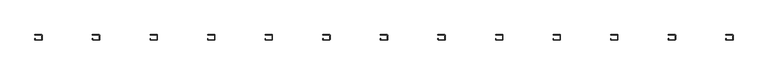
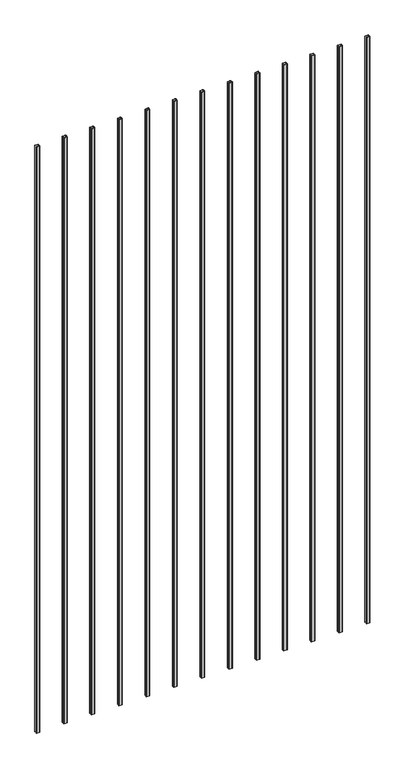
"""IFC4 building model written with IfcOpenShell, lengths in millimetres: fastener geometry, Knight-Wall-Systems_CI-Girt : CI-Girt™ 150."""

from ifc_helpers import new_model, si_unit, point, frame_2d, origin, origin_with_axes, place, context, project, spatial, polyline, circle_curve, trimmed, segment, composite_curve, outline, extrude, source, transform, mapped, element, save


def fastener_d01256d0(model_context):
    return source(origin(), model_context, "Body", "SweptSolid", [
        extrude(outline(composite_curve([segment(trimmed(circle_curve(frame_2d((4518.025, 3.175)), 3.175), [point((4521.2, 3.175))], [point((4518.025, 0.0))], False, "CARTESIAN"), True, "CONTINUOUS"), segment(polyline([(4518.025, 0.0), (4473.575, 0.0)]), True, "CONTINUOUS"), segment(trimmed(circle_curve(frame_2d((4473.575, 3.175)), 3.175), [point((4473.575, 0.0))], [point((4470.4, 3.175))], False, "CARTESIAN"), True, "CONTINUOUS"), segment(polyline([(4470.4, 3.175), (4470.4, 9.525), (4471.9875, 9.525), (4471.9875, 3.175)]), True, "CONTINUOUS"), segment(trimmed(circle_curve(frame_2d((4473.575, 3.175)), 1.5875), [point((4471.9875, 3.175))], [point((4473.575, 1.5875))], True, "CARTESIAN"), True, "CONTINUOUS"), segment(polyline([(4473.575, 1.5875), (4518.025, 1.5875)]), True, "CONTINUOUS"), segment(trimmed(circle_curve(frame_2d((4518.025, 3.175)), 1.5875), [point((4518.025, 1.5875))], [point((4519.6125, 3.175))], True, "CARTESIAN"), True, "CONTINUOUS"), segment(polyline([(4519.6125, 3.175), (4519.6125, 34.925)]), True, "CONTINUOUS"), segment(trimmed(circle_curve(frame_2d((4518.025, 34.925)), 1.5875), [point((4519.6125, 34.925))], [point((4518.025, 36.5125))], True, "CARTESIAN"), True, "CONTINUOUS"), segment(polyline([(4518.025, 36.5125), (4470.4, 36.5125), (4470.4, 38.1), (4518.025, 38.1)]), True, "CONTINUOUS"), segment(trimmed(circle_curve(frame_2d((4518.025, 34.925)), 3.175), [point((4518.025, 38.1))], [point((4521.2, 34.925))], False, "CARTESIAN"), True, "CONTINUOUS"), segment(polyline([(4521.2, 34.925), (4521.2, 3.175)]), True, "CONTINUOUS")], self_intersect=False)), origin_with_axes(), (0.0, 0.0, 1.0), 9144.0),
        extrude(outline(composite_curve([segment(trimmed(circle_curve(frame_2d((4111.625, 3.175)), 3.175), [point((4114.8, 3.175))], [point((4111.625, 0.0))], False, "CARTESIAN"), True, "CONTINUOUS"), segment(polyline([(4111.625, 0.0), (4067.175, 0.0)]), True, "CONTINUOUS"), segment(trimmed(circle_curve(frame_2d((4067.175, 3.175)), 3.175), [point((4067.175, 0.0))], [point((4064.0, 3.175))], False, "CARTESIAN"), True, "CONTINUOUS"), segment(polyline([(4064.0, 3.175), (4064.0, 9.525), (4065.5875, 9.525), (4065.5875, 3.175)]), True, "CONTINUOUS"), segment(trimmed(circle_curve(frame_2d((4067.175, 3.175)), 1.5875), [point((4065.5875, 3.175))], [point((4067.175, 1.5875))], True, "CARTESIAN"), True, "CONTINUOUS"), segment(polyline([(4067.175, 1.5875), (4111.625, 1.5875)]), True, "CONTINUOUS"), segment(trimmed(circle_curve(frame_2d((4111.625, 3.175)), 1.5875), [point((4111.625, 1.5875))], [point((4113.2125, 3.175))], True, "CARTESIAN"), True, "CONTINUOUS"), segment(polyline([(4113.2125, 3.175), (4113.2125, 34.925)]), True, "CONTINUOUS"), segment(trimmed(circle_curve(frame_2d((4111.625, 34.925)), 1.5875), [point((4113.2125, 34.925))], [point((4111.625, 36.5125))], True, "CARTESIAN"), True, "CONTINUOUS"), segment(polyline([(4111.625, 36.5125), (4064.0, 36.5125), (4064.0, 38.1), (4111.625, 38.1)]), True, "CONTINUOUS"), segment(trimmed(circle_curve(frame_2d((4111.625, 34.925)), 3.175), [point((4111.625, 38.1))], [point((4114.8, 34.925))], False, "CARTESIAN"), True, "CONTINUOUS"), segment(polyline([(4114.8, 34.925), (4114.8, 3.175)]), True, "CONTINUOUS")], self_intersect=False)), origin_with_axes(), (0.0, 0.0, 1.0), 9144.0),
        extrude(outline(composite_curve([segment(trimmed(circle_curve(frame_2d((3705.225, 3.175)), 3.175), [point((3708.4, 3.175))], [point((3705.225, 0.0))], False, "CARTESIAN"), True, "CONTINUOUS"), segment(polyline([(3705.225, 0.0), (3660.775, 0.0)]), True, "CONTINUOUS"), segment(trimmed(circle_curve(frame_2d((3660.775, 3.175)), 3.175), [point((3660.775, 0.0))], [point((3657.6, 3.175))], False, "CARTESIAN"), True, "CONTINUOUS"), segment(polyline([(3657.6, 3.175), (3657.6, 9.525), (3659.1875, 9.525), (3659.1875, 3.175)]), True, "CONTINUOUS"), segment(trimmed(circle_curve(frame_2d((3660.775, 3.175)), 1.5875), [point((3659.1875, 3.175))], [point((3660.775, 1.5875))], True, "CARTESIAN"), True, "CONTINUOUS"), segment(polyline([(3660.775, 1.5875), (3705.225, 1.5875)]), True, "CONTINUOUS"), segment(trimmed(circle_curve(frame_2d((3705.225, 3.175)), 1.5875), [point((3705.225, 1.5875))], [point((3706.8125, 3.175))], True, "CARTESIAN"), True, "CONTINUOUS"), segment(polyline([(3706.8125, 3.175), (3706.8125, 34.925)]), True, "CONTINUOUS"), segment(trimmed(circle_curve(frame_2d((3705.225, 34.925)), 1.5875), [point((3706.8125, 34.925))], [point((3705.225, 36.5125))], True, "CARTESIAN"), True, "CONTINUOUS"), segment(polyline([(3705.225, 36.5125), (3657.6, 36.5125), (3657.6, 38.1), (3705.225, 38.1)]), True, "CONTINUOUS"), segment(trimmed(circle_curve(frame_2d((3705.225, 34.925)), 3.175), [point((3705.225, 38.1))], [point((3708.4, 34.925))], False, "CARTESIAN"), True, "CONTINUOUS"), segment(polyline([(3708.4, 34.925), (3708.4, 3.175)]), True, "CONTINUOUS")], self_intersect=False)), origin_with_axes(), (0.0, 0.0, 1.0), 9144.0),
        extrude(outline(composite_curve([segment(trimmed(circle_curve(frame_2d((3298.825, 3.175)), 3.175), [point((3302.0, 3.175))], [point((3298.825, 0.0))], False, "CARTESIAN"), True, "CONTINUOUS"), segment(polyline([(3298.825, 0.0), (3254.375, 0.0)]), True, "CONTINUOUS"), segment(trimmed(circle_curve(frame_2d((3254.375, 3.175)), 3.175), [point((3254.375, 0.0))], [point((3251.2, 3.175))], False, "CARTESIAN"), True, "CONTINUOUS"), segment(polyline([(3251.2, 3.175), (3251.2, 9.525), (3252.7875, 9.525), (3252.7875, 3.175)]), True, "CONTINUOUS"), segment(trimmed(circle_curve(frame_2d((3254.375, 3.175)), 1.5875), [point((3252.7875, 3.175))], [point((3254.375, 1.5875))], True, "CARTESIAN"), True, "CONTINUOUS"), segment(polyline([(3254.375, 1.5875), (3298.825, 1.5875)]), True, "CONTINUOUS"), segment(trimmed(circle_curve(frame_2d((3298.825, 3.175)), 1.5875), [point((3298.825, 1.5875))], [point((3300.4125, 3.175))], True, "CARTESIAN"), True, "CONTINUOUS"), segment(polyline([(3300.4125, 3.175), (3300.4125, 34.925)]), True, "CONTINUOUS"), segment(trimmed(circle_curve(frame_2d((3298.825, 34.925)), 1.5875), [point((3300.4125, 34.925))], [point((3298.825, 36.5125))], True, "CARTESIAN"), True, "CONTINUOUS"), segment(polyline([(3298.825, 36.5125), (3251.2, 36.5125), (3251.2, 38.1), (3298.825, 38.1)]), True, "CONTINUOUS"), segment(trimmed(circle_curve(frame_2d((3298.825, 34.925)), 3.175), [point((3298.825, 38.1))], [point((3302.0, 34.925))], False, "CARTESIAN"), True, "CONTINUOUS"), segment(polyline([(3302.0, 34.925), (3302.0, 3.175)]), True, "CONTINUOUS")], self_intersect=False)), origin_with_axes(), (0.0, 0.0, 1.0), 9144.0),
        extrude(outline(composite_curve([segment(trimmed(circle_curve(frame_2d((2892.425, 3.175)), 3.175), [point((2895.6, 3.175))], [point((2892.425, 0.0))], False, "CARTESIAN"), True, "CONTINUOUS"), segment(polyline([(2892.425, 0.0), (2847.975, 0.0)]), True, "CONTINUOUS"), segment(trimmed(circle_curve(frame_2d((2847.975, 3.175)), 3.175), [point((2847.975, 0.0))], [point((2844.8, 3.175))], False, "CARTESIAN"), True, "CONTINUOUS"), segment(polyline([(2844.8, 3.175), (2844.8, 9.525), (2846.3875, 9.525), (2846.3875, 3.175)]), True, "CONTINUOUS"), segment(trimmed(circle_curve(frame_2d((2847.975, 3.175)), 1.5875), [point((2846.3875, 3.175))], [point((2847.975, 1.5875))], True, "CARTESIAN"), True, "CONTINUOUS"), segment(polyline([(2847.975, 1.5875), (2892.425, 1.5875)]), True, "CONTINUOUS"), segment(trimmed(circle_curve(frame_2d((2892.425, 3.175)), 1.5875), [point((2892.425, 1.5875))], [point((2894.0125, 3.175))], True, "CARTESIAN"), True, "CONTINUOUS"), segment(polyline([(2894.0125, 3.175), (2894.0125, 34.925)]), True, "CONTINUOUS"), segment(trimmed(circle_curve(frame_2d((2892.425, 34.925)), 1.5875), [point((2894.0125, 34.925))], [point((2892.425, 36.5125))], True, "CARTESIAN"), True, "CONTINUOUS"), segment(polyline([(2892.425, 36.5125), (2844.8, 36.5125), (2844.8, 38.1), (2892.425, 38.1)]), True, "CONTINUOUS"), segment(trimmed(circle_curve(frame_2d((2892.425, 34.925)), 3.175), [point((2892.425, 38.1))], [point((2895.6, 34.925))], False, "CARTESIAN"), True, "CONTINUOUS"), segment(polyline([(2895.6, 34.925), (2895.6, 3.175)]), True, "CONTINUOUS")], self_intersect=False)), origin_with_axes(), (0.0, 0.0, 1.0), 9144.0),
        extrude(outline(composite_curve([segment(trimmed(circle_curve(frame_2d((2486.025, 3.175)), 3.175), [point((2489.2, 3.175))], [point((2486.025, 0.0))], False, "CARTESIAN"), True, "CONTINUOUS"), segment(polyline([(2486.025, 0.0), (2441.575, 0.0)]), True, "CONTINUOUS"), segment(trimmed(circle_curve(frame_2d((2441.575, 3.175)), 3.175), [point((2441.575, 0.0))], [point((2438.4, 3.175))], False, "CARTESIAN"), True, "CONTINUOUS"), segment(polyline([(2438.4, 3.175), (2438.4, 9.525), (2439.9875, 9.525), (2439.9875, 3.175)]), True, "CONTINUOUS"), segment(trimmed(circle_curve(frame_2d((2441.575, 3.175)), 1.5875), [point((2439.9875, 3.175))], [point((2441.575, 1.5875))], True, "CARTESIAN"), True, "CONTINUOUS"), segment(polyline([(2441.575, 1.5875), (2486.025, 1.5875)]), True, "CONTINUOUS"), segment(trimmed(circle_curve(frame_2d((2486.025, 3.175)), 1.5875), [point((2486.025, 1.5875))], [point((2487.6125, 3.175))], True, "CARTESIAN"), True, "CONTINUOUS"), segment(polyline([(2487.6125, 3.175), (2487.6125, 34.925)]), True, "CONTINUOUS"), segment(trimmed(circle_curve(frame_2d((2486.025, 34.925)), 1.5875), [point((2487.6125, 34.925))], [point((2486.025, 36.5125))], True, "CARTESIAN"), True, "CONTINUOUS"), segment(polyline([(2486.025, 36.5125), (2438.4, 36.5125), (2438.4, 38.1), (2486.025, 38.1)]), True, "CONTINUOUS"), segment(trimmed(circle_curve(frame_2d((2486.025, 34.925)), 3.175), [point((2486.025, 38.1))], [point((2489.2, 34.925))], False, "CARTESIAN"), True, "CONTINUOUS"), segment(polyline([(2489.2, 34.925), (2489.2, 3.175)]), True, "CONTINUOUS")], self_intersect=False)), origin_with_axes(), (0.0, 0.0, 1.0), 9144.0),
        extrude(outline(composite_curve([segment(trimmed(circle_curve(frame_2d((2079.625, 3.175)), 3.175), [point((2082.8, 3.175))], [point((2079.625, 0.0))], False, "CARTESIAN"), True, "CONTINUOUS"), segment(polyline([(2079.625, 0.0), (2035.175, 0.0)]), True, "CONTINUOUS"), segment(trimmed(circle_curve(frame_2d((2035.175, 3.175)), 3.175), [point((2035.175, 0.0))], [point((2032.0, 3.175))], False, "CARTESIAN"), True, "CONTINUOUS"), segment(polyline([(2032.0, 3.175), (2032.0, 9.525), (2033.5875, 9.525), (2033.5875, 3.175)]), True, "CONTINUOUS"), segment(trimmed(circle_curve(frame_2d((2035.175, 3.175)), 1.5875), [point((2033.5875, 3.175))], [point((2035.175, 1.5875))], True, "CARTESIAN"), True, "CONTINUOUS"), segment(polyline([(2035.175, 1.5875), (2079.625, 1.5875)]), True, "CONTINUOUS"), segment(trimmed(circle_curve(frame_2d((2079.625, 3.175)), 1.5875), [point((2079.625, 1.5875))], [point((2081.2125, 3.175))], True, "CARTESIAN"), True, "CONTINUOUS"), segment(polyline([(2081.2125, 3.175), (2081.2125, 34.925)]), True, "CONTINUOUS"), segment(trimmed(circle_curve(frame_2d((2079.625, 34.925)), 1.5875), [point((2081.2125, 34.925))], [point((2079.625, 36.5125))], True, "CARTESIAN"), True, "CONTINUOUS"), segment(polyline([(2079.625, 36.5125), (2032.0, 36.5125), (2032.0, 38.1), (2079.625, 38.1)]), True, "CONTINUOUS"), segment(trimmed(circle_curve(frame_2d((2079.625, 34.925)), 3.175), [point((2079.625, 38.1))], [point((2082.8, 34.925))], False, "CARTESIAN"), True, "CONTINUOUS"), segment(polyline([(2082.8, 34.925), (2082.8, 3.175)]), True, "CONTINUOUS")], self_intersect=False)), origin_with_axes(), (0.0, 0.0, 1.0), 9144.0),
        extrude(outline(composite_curve([segment(trimmed(circle_curve(frame_2d((1673.225, 3.175)), 3.175), [point((1676.4, 3.175))], [point((1673.225, 0.0))], False, "CARTESIAN"), True, "CONTINUOUS"), segment(polyline([(1673.225, 0.0), (1628.775, 0.0)]), True, "CONTINUOUS"), segment(trimmed(circle_curve(frame_2d((1628.775, 3.175)), 3.175), [point((1628.775, 0.0))], [point((1625.6, 3.175))], False, "CARTESIAN"), True, "CONTINUOUS"), segment(polyline([(1625.6, 3.175), (1625.6, 9.525), (1627.1875, 9.525), (1627.1875, 3.175)]), True, "CONTINUOUS"), segment(trimmed(circle_curve(frame_2d((1628.775, 3.175)), 1.5875), [point((1627.1875, 3.175))], [point((1628.775, 1.5875))], True, "CARTESIAN"), True, "CONTINUOUS"), segment(polyline([(1628.775, 1.5875), (1673.225, 1.5875)]), True, "CONTINUOUS"), segment(trimmed(circle_curve(frame_2d((1673.225, 3.175)), 1.5875), [point((1673.225, 1.5875))], [point((1674.8125, 3.175))], True, "CARTESIAN"), True, "CONTINUOUS"), segment(polyline([(1674.8125, 3.175), (1674.8125, 34.925)]), True, "CONTINUOUS"), segment(trimmed(circle_curve(frame_2d((1673.225, 34.925)), 1.5875), [point((1674.8125, 34.925))], [point((1673.225, 36.5125))], True, "CARTESIAN"), True, "CONTINUOUS"), segment(polyline([(1673.225, 36.5125), (1625.6, 36.5125), (1625.6, 38.1), (1673.225, 38.1)]), True, "CONTINUOUS"), segment(trimmed(circle_curve(frame_2d((1673.225, 34.925)), 3.175), [point((1673.225, 38.1))], [point((1676.4, 34.925))], False, "CARTESIAN"), True, "CONTINUOUS"), segment(polyline([(1676.4, 34.925), (1676.4, 3.175)]), True, "CONTINUOUS")], self_intersect=False)), origin_with_axes(), (0.0, 0.0, 1.0), 9144.0),
        extrude(outline(composite_curve([segment(trimmed(circle_curve(frame_2d((1266.825, 3.175)), 3.175), [point((1270.0, 3.175))], [point((1266.825, 0.0))], False, "CARTESIAN"), True, "CONTINUOUS"), segment(polyline([(1266.825, 0.0), (1222.375, 0.0)]), True, "CONTINUOUS"), segment(trimmed(circle_curve(frame_2d((1222.375, 3.175)), 3.175), [point((1222.375, 0.0))], [point((1219.2, 3.175))], False, "CARTESIAN"), True, "CONTINUOUS"), segment(polyline([(1219.2, 3.175), (1219.2, 9.525), (1220.7875, 9.525), (1220.7875, 3.175)]), True, "CONTINUOUS"), segment(trimmed(circle_curve(frame_2d((1222.375, 3.175)), 1.5875), [point((1220.7875, 3.175))], [point((1222.375, 1.5875))], True, "CARTESIAN"), True, "CONTINUOUS"), segment(polyline([(1222.375, 1.5875), (1266.825, 1.5875)]), True, "CONTINUOUS"), segment(trimmed(circle_curve(frame_2d((1266.825, 3.175)), 1.5875), [point((1266.825, 1.5875))], [point((1268.4125, 3.175))], True, "CARTESIAN"), True, "CONTINUOUS"), segment(polyline([(1268.4125, 3.175), (1268.4125, 34.925)]), True, "CONTINUOUS"), segment(trimmed(circle_curve(frame_2d((1266.825, 34.925)), 1.5875), [point((1268.4125, 34.925))], [point((1266.825, 36.5125))], True, "CARTESIAN"), True, "CONTINUOUS"), segment(polyline([(1266.825, 36.5125), (1219.2, 36.5125), (1219.2, 38.1), (1266.825, 38.1)]), True, "CONTINUOUS"), segment(trimmed(circle_curve(frame_2d((1266.825, 34.925)), 3.175), [point((1266.825, 38.1))], [point((1270.0, 34.925))], False, "CARTESIAN"), True, "CONTINUOUS"), segment(polyline([(1270.0, 34.925), (1270.0, 3.175)]), True, "CONTINUOUS")], self_intersect=False)), origin_with_axes(), (0.0, 0.0, 1.0), 9144.0),
        extrude(outline(composite_curve([segment(trimmed(circle_curve(frame_2d((860.425, 3.175)), 3.175), [point((863.6, 3.175))], [point((860.425, 0.0))], False, "CARTESIAN"), True, "CONTINUOUS"), segment(polyline([(860.425, 0.0), (815.975, 0.0)]), True, "CONTINUOUS"), segment(trimmed(circle_curve(frame_2d((815.975, 3.175)), 3.175), [point((815.975, 0.0))], [point((812.8, 3.175))], False, "CARTESIAN"), True, "CONTINUOUS"), segment(polyline([(812.8, 3.175), (812.8, 9.525), (814.3875, 9.525), (814.3875, 3.175)]), True, "CONTINUOUS"), segment(trimmed(circle_curve(frame_2d((815.975, 3.175)), 1.5875), [point((814.3875, 3.175))], [point((815.975, 1.5875))], True, "CARTESIAN"), True, "CONTINUOUS"), segment(polyline([(815.975, 1.5875), (860.425, 1.5875)]), True, "CONTINUOUS"), segment(trimmed(circle_curve(frame_2d((860.425, 3.175)), 1.5875), [point((860.425, 1.5875))], [point((862.0125, 3.175))], True, "CARTESIAN"), True, "CONTINUOUS"), segment(polyline([(862.0125, 3.175), (862.0125, 34.925)]), True, "CONTINUOUS"), segment(trimmed(circle_curve(frame_2d((860.425, 34.925)), 1.5875), [point((862.0125, 34.925))], [point((860.425, 36.5125))], True, "CARTESIAN"), True, "CONTINUOUS"), segment(polyline([(860.425, 36.5125), (812.8, 36.5125), (812.8, 38.1), (860.425, 38.1)]), True, "CONTINUOUS"), segment(trimmed(circle_curve(frame_2d((860.425, 34.925)), 3.175), [point((860.425, 38.1))], [point((863.6, 34.925))], False, "CARTESIAN"), True, "CONTINUOUS"), segment(polyline([(863.6, 34.925), (863.6, 3.175)]), True, "CONTINUOUS")], self_intersect=False)), origin_with_axes(), (0.0, 0.0, 1.0), 9144.0),
        extrude(outline(composite_curve([segment(trimmed(circle_curve(frame_2d((454.025, 3.175)), 3.175), [point((457.2, 3.175))], [point((454.025, 0.0))], False, "CARTESIAN"), True, "CONTINUOUS"), segment(polyline([(454.025, 0.0), (409.575, 0.0)]), True, "CONTINUOUS"), segment(trimmed(circle_curve(frame_2d((409.575, 3.175)), 3.175), [point((409.575, 0.0))], [point((406.4, 3.175))], False, "CARTESIAN"), True, "CONTINUOUS"), segment(polyline([(406.4, 3.175), (406.4, 9.525), (407.9875, 9.525), (407.9875, 3.175)]), True, "CONTINUOUS"), segment(trimmed(circle_curve(frame_2d((409.575, 3.175)), 1.5875), [point((407.9875, 3.175))], [point((409.575, 1.5875))], True, "CARTESIAN"), True, "CONTINUOUS"), segment(polyline([(409.575, 1.5875), (454.025, 1.5875)]), True, "CONTINUOUS"), segment(trimmed(circle_curve(frame_2d((454.025, 3.175)), 1.5875), [point((454.025, 1.5875))], [point((455.6125, 3.175))], True, "CARTESIAN"), True, "CONTINUOUS"), segment(polyline([(455.6125, 3.175), (455.6125, 34.925)]), True, "CONTINUOUS"), segment(trimmed(circle_curve(frame_2d((454.025, 34.925)), 1.5875), [point((455.6125, 34.925))], [point((454.025, 36.5125))], True, "CARTESIAN"), True, "CONTINUOUS"), segment(polyline([(454.025, 36.5125), (406.4, 36.5125), (406.4, 38.1), (454.025, 38.1)]), True, "CONTINUOUS"), segment(trimmed(circle_curve(frame_2d((454.025, 34.925)), 3.175), [point((454.025, 38.1))], [point((457.2, 34.925))], False, "CARTESIAN"), True, "CONTINUOUS"), segment(polyline([(457.2, 34.925), (457.2, 3.175)]), True, "CONTINUOUS")], self_intersect=False)), origin_with_axes(), (0.0, 0.0, 1.0), 9144.0),
        extrude(outline(composite_curve([segment(trimmed(circle_curve(frame_2d((4924.425, 3.175)), 3.175), [point((4927.6, 3.175))], [point((4924.425, 0.0))], False, "CARTESIAN"), True, "CONTINUOUS"), segment(polyline([(4924.425, 0.0), (4879.975, 0.0)]), True, "CONTINUOUS"), segment(trimmed(circle_curve(frame_2d((4879.975, 3.175)), 3.175), [point((4879.975, 0.0))], [point((4876.8, 3.175))], False, "CARTESIAN"), True, "CONTINUOUS"), segment(polyline([(4876.8, 3.175), (4876.8, 9.525), (4878.3875, 9.525), (4878.3875, 3.175)]), True, "CONTINUOUS"), segment(trimmed(circle_curve(frame_2d((4879.975, 3.175)), 1.5875), [point((4878.3875, 3.175))], [point((4879.975, 1.5875))], True, "CARTESIAN"), True, "CONTINUOUS"), segment(polyline([(4879.975, 1.5875), (4924.425, 1.5875)]), True, "CONTINUOUS"), segment(trimmed(circle_curve(frame_2d((4924.425, 3.175)), 1.5875), [point((4924.425, 1.5875))], [point((4926.0125, 3.175))], True, "CARTESIAN"), True, "CONTINUOUS"), segment(polyline([(4926.0125, 3.175), (4926.0125, 34.925)]), True, "CONTINUOUS"), segment(trimmed(circle_curve(frame_2d((4924.425, 34.925)), 1.5875), [point((4926.0125, 34.925))], [point((4924.425, 36.5125))], True, "CARTESIAN"), True, "CONTINUOUS"), segment(polyline([(4924.425, 36.5125), (4876.8, 36.5125), (4876.8, 38.1), (4924.425, 38.1)]), True, "CONTINUOUS"), segment(trimmed(circle_curve(frame_2d((4924.425, 34.925)), 3.175), [point((4924.425, 38.1))], [point((4927.6, 34.925))], False, "CARTESIAN"), True, "CONTINUOUS"), segment(polyline([(4927.6, 34.925), (4927.6, 3.175)]), True, "CONTINUOUS")], self_intersect=False)), origin_with_axes(), (0.0, 0.0, 1.0), 9144.0),
        extrude(outline(composite_curve([segment(trimmed(circle_curve(frame_2d((47.625, 3.175)), 3.175), [point((50.8, 3.175))], [point((47.625, 0.0))], False, "CARTESIAN"), True, "CONTINUOUS"), segment(polyline([(47.625, 0.0), (3.175, 0.0)]), True, "CONTINUOUS"), segment(trimmed(circle_curve(frame_2d((3.175, 3.175)), 3.175), [point((3.175, 0.0))], [point((0.0, 3.175))], False, "CARTESIAN"), True, "CONTINUOUS"), segment(polyline([(0.0, 3.175), (0.0, 9.525), (1.5875, 9.525), (1.5875, 3.175)]), True, "CONTINUOUS"), segment(trimmed(circle_curve(frame_2d((3.175, 3.175)), 1.5875), [point((1.5875, 3.175))], [point((3.175, 1.5875))], True, "CARTESIAN"), True, "CONTINUOUS"), segment(polyline([(3.175, 1.5875), (47.625, 1.5875)]), True, "CONTINUOUS"), segment(trimmed(circle_curve(frame_2d((47.625, 3.175)), 1.5875), [point((47.625, 1.5875))], [point((49.2125, 3.175))], True, "CARTESIAN"), True, "CONTINUOUS"), segment(polyline([(49.2125, 3.175), (49.2125, 34.925)]), True, "CONTINUOUS"), segment(trimmed(circle_curve(frame_2d((47.625, 34.925)), 1.5875), [point((49.2125, 34.925))], [point((47.625, 36.5125))], True, "CARTESIAN"), True, "CONTINUOUS"), segment(polyline([(47.625, 36.5125), (0.0, 36.5125), (0.0, 38.1), (47.625, 38.1)]), True, "CONTINUOUS"), segment(trimmed(circle_curve(frame_2d((47.625, 34.925)), 3.175), [point((47.625, 38.1))], [point((50.8, 34.925))], False, "CARTESIAN"), True, "CONTINUOUS"), segment(polyline([(50.8, 34.925), (50.8, 3.175)]), True, "CONTINUOUS")], self_intersect=False)), origin_with_axes(), (0.0, 0.0, 1.0), 9144.0),
    ])


if __name__ == "__main__":
    model = new_model("IFC4")
    model_context = context("Model", 3, world=origin())
    ifc_project = project(units=[si_unit("LENGTHUNIT", "METRE", prefix="MILLI")], contexts=[model_context])
    site = spatial("IfcSite", under=ifc_project)
    building = spatial("IfcBuilding", under=site)
    placement = place(None, origin())
    fastener_shape = fastener_d01256d0(model_context)
    element("IfcFastener", 1, ObjectType="Knight-Wall-Systems_CI-Girt : CI-Girt™ 150", at=placement, inside=building, context=model_context, shape_type="MappedRepresentation", body=[
        mapped(fastener_shape, transform((0.0, 0.0, 0.0), x_axis=(1.0, 0.0, 0.0), y_axis=(0.0, 1.0, 0.0), z_axis=(0.0, 0.0, 1.0))),
    ])
    save(model, "model.ifc")
